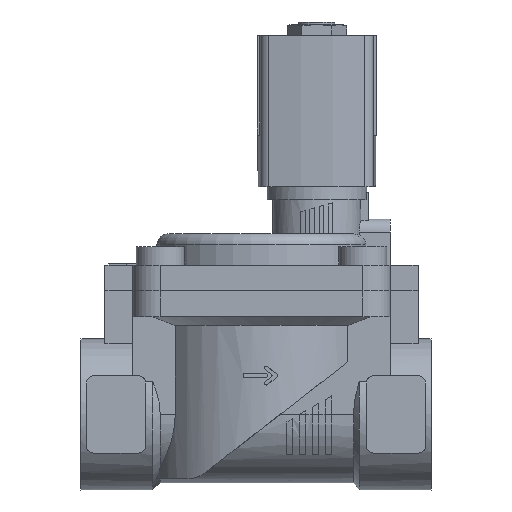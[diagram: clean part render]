
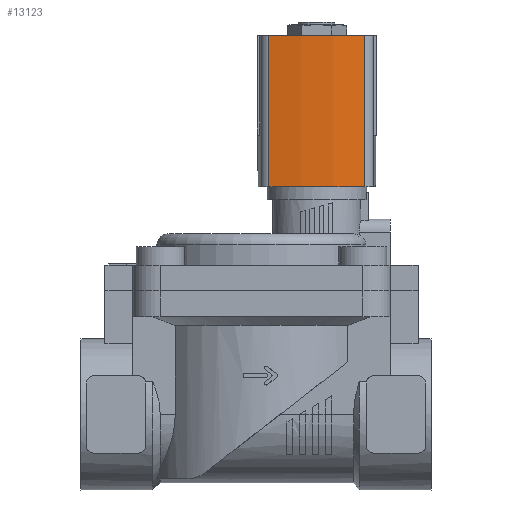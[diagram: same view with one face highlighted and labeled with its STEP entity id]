
A CAD part, top view. The second image highlights one B-rep face of the part: STEP entity #13123.
In plain terms, the highlighted cylindrical face has radius 60 mm (diameter 120 mm), a partial arc.
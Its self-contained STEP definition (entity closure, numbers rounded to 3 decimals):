
#225=CYLINDRICAL_SURFACE('',#13993,60.);
#1287=LINE('',#20058,#2431);
#1288=LINE('',#20062,#2432);
#2431=VECTOR('',#16610,1000.);
#2432=VECTOR('',#16615,1000.);
#4912=ORIENTED_EDGE('',*,*,#6987,.T.);
#4913=ORIENTED_EDGE('',*,*,#6988,.F.);
#4914=ORIENTED_EDGE('',*,*,#6273,.F.);
#4915=ORIENTED_EDGE('',*,*,#6986,.T.);
#6273=EDGE_CURVE('',#7574,#7575,#8309,.T.);
#6986=EDGE_CURVE('',#7574,#8080,#1287,.T.);
#6987=EDGE_CURVE('',#8080,#8081,#8403,.T.);
#6988=EDGE_CURVE('',#7575,#8081,#1288,.T.);
#7574=VERTEX_POINT('',#18712);
#7575=VERTEX_POINT('',#18714);
#8080=VERTEX_POINT('',#20057);
#8081=VERTEX_POINT('',#20061);
#8309=CIRCLE('',#13773,60.);
#8403=CIRCLE('',#13994,60.);
#8837=EDGE_LOOP('',(#4912,#4913,#4914,#4915));
#9426=FACE_BOUND('',#8837,.T.);
#13123=ADVANCED_FACE('',(#9426),#225,.T.);
#13773=AXIS2_PLACEMENT_3D('',#18713,#15551,#15552);
#13993=AXIS2_PLACEMENT_3D('',#20059,#16611,#16612);
#13994=AXIS2_PLACEMENT_3D('',#20060,#16613,#16614);
#15551=DIRECTION('',(0.,1.,0.));
#15552=DIRECTION('',(1.,0.,0.));
#16610=DIRECTION('',(0.,-1.,0.));
#16611=DIRECTION('',(0.,-1.,0.));
#16612=DIRECTION('',(0.,0.,-1.));
#16613=DIRECTION('',(0.,1.,0.));
#16614=DIRECTION('',(1.,0.,0.));
#16615=DIRECTION('',(0.,-1.,0.));
#18712=CARTESIAN_POINT('',(19.078,15.,12.986));
#18713=CARTESIAN_POINT('',(-39.5,15.,0.));
#18714=CARTESIAN_POINT('',(19.078,15.,-12.986));
#20057=CARTESIAN_POINT('',(19.078,-26.,12.986));
#20058=CARTESIAN_POINT('',(19.078,15.,12.986));
#20059=CARTESIAN_POINT('',(-39.5,15.,0.));
#20060=CARTESIAN_POINT('',(-39.5,-26.,0.));
#20061=CARTESIAN_POINT('',(19.078,-26.,-12.986));
#20062=CARTESIAN_POINT('',(19.078,15.,-12.986));
